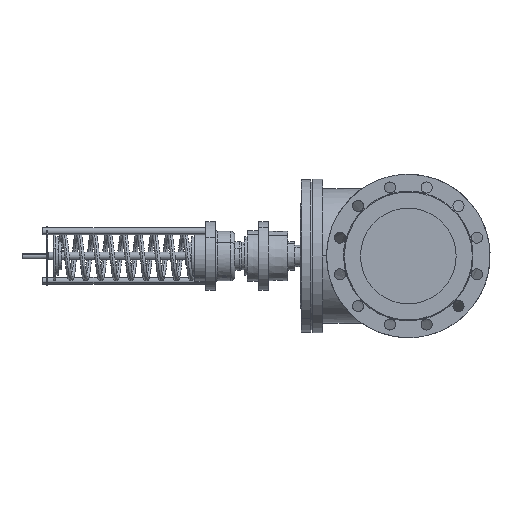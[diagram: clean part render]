
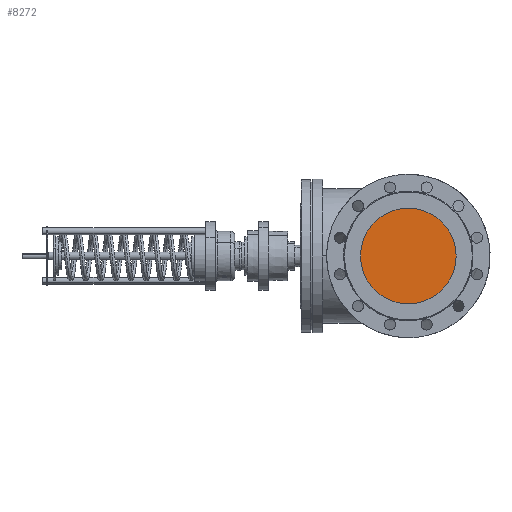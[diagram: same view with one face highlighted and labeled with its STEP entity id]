
A CAD part, left-side view. The second image highlights one B-rep face of the part: STEP entity #8272.
In plain terms, the highlighted planar face has unit normal (-1, 0, 0).
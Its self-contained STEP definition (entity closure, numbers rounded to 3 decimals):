
#62 = VERTEX_POINT ( 'NONE', #10851 ) ;
#375 = CARTESIAN_POINT ( 'NONE',  ( -12.803, -120.473, -1.511 ) ) ;
#1253 = DIRECTION ( 'NONE',  ( 0., -1., 0. ) ) ;
#1343 = CARTESIAN_POINT ( 'NONE',  ( -12.798, -249.65, -1.511 ) ) ;
#1400 = CIRCLE ( 'NONE', #10799, 99.5 ) ;
#1917 = EDGE_CURVE ( 'NONE', #11375, #62, #1400, .T. ) ;
#2029 = EDGE_CURVE ( 'NONE', #62, #11375, #2853, .T. ) ;
#2490 = AXIS2_PLACEMENT_3D ( 'NONE', #375, #9102, #2964 ) ;
#2853 = CIRCLE ( 'NONE', #2490, 99.5 ) ;
#2964 = DIRECTION ( 'NONE',  ( 0., -1., 0. ) ) ;
#3002 = DIRECTION ( 'NONE',  ( 0., 1., 0. ) ) ;
#3516 = ORIENTED_EDGE ( 'NONE', *, *, #2029, .F. ) ;
#4913 = DIRECTION ( 'NONE',  ( -1., 0., 0. ) ) ;
#5219 = ORIENTED_EDGE ( 'NONE', *, *, #1917, .F. ) ;
#5387 = CARTESIAN_POINT ( 'NONE',  ( -12.803, -120.473, -1.511 ) ) ;
#5408 = CARTESIAN_POINT ( 'NONE',  ( -12.807, -20.973, -1.511 ) ) ;
#7249 = DIRECTION ( 'NONE',  ( 1., 0., 0. ) ) ;
#7546 = AXIS2_PLACEMENT_3D ( 'NONE', #1343, #4913, #3002 ) ;
#8272 = ADVANCED_FACE ( 'NONE', ( #8280 ), #8335, .T. ) ;
#8280 = FACE_OUTER_BOUND ( 'NONE', #9470, .T. ) ;
#8335 = PLANE ( 'NONE',  #7546 ) ;
#9102 = DIRECTION ( 'NONE',  ( 1., 0., 0. ) ) ;
#9470 = EDGE_LOOP ( 'NONE', ( #3516, #5219 ) ) ;
#10799 = AXIS2_PLACEMENT_3D ( 'NONE', #5387, #7249, #1253 ) ;
#10851 = CARTESIAN_POINT ( 'NONE',  ( -12.8, -219.973, -1.511 ) ) ;
#11375 = VERTEX_POINT ( 'NONE', #5408 ) ;
